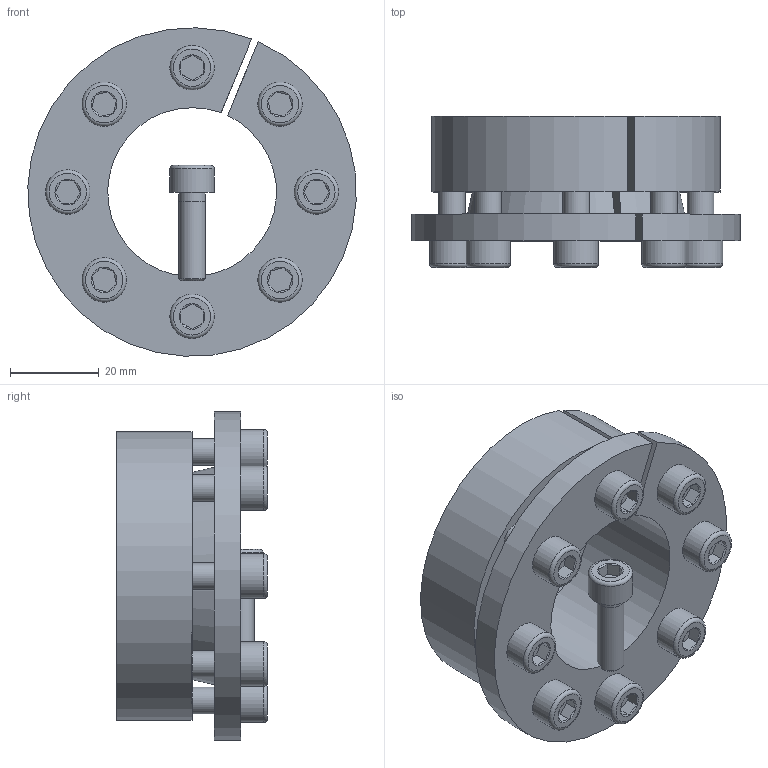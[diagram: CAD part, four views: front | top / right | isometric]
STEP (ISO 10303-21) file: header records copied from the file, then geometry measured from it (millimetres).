
FILE_DESCRIPTION( ( 'Unknown' ), '1' );
FILE_NAME( 'C:/Dokumente und Einstellungen/Sven/Desktop/homepage/cad - homepage/KBS16/KBS 16 - 38 x 65.stp', 'Unknown', ( 'Unknown' ), ( 'Unknown' ), 'XStep 1.0', 'Unknown', ' ' );
FILE_SCHEMA( ( 'automotive_design' ) );
Length unit declared in the file: millimetre
Products named in the file (3): Assem1; KBS 16 - 38 x 65; ISO EN DIN 4762 M6x20
Bounding box: 73.92 x 34 x 73.95 mm (x, y, z)
Volume: 115413.6 mm3; surface area: 50071.2 mm2
Topology: 11 solids, 11 shells, 281 faces, 557 edges, 334 vertices
Faces by surface type: plane 122, cylinder 74, cone 67, torus 18
Full cylindrical faces by diameter (mm): 5 x9, 6 x50, 10 x9
Entity records: 1798 total; most frequent: CARTESIAN_POINT 293, DIRECTION 272, ORIENTED_EDGE 194, AXIS2_PLACEMENT_3D 122, EDGE_LOOP 112, EDGE_CURVE 97, FACE_OUTER_BOUND 75, VERTEX_POINT 75
